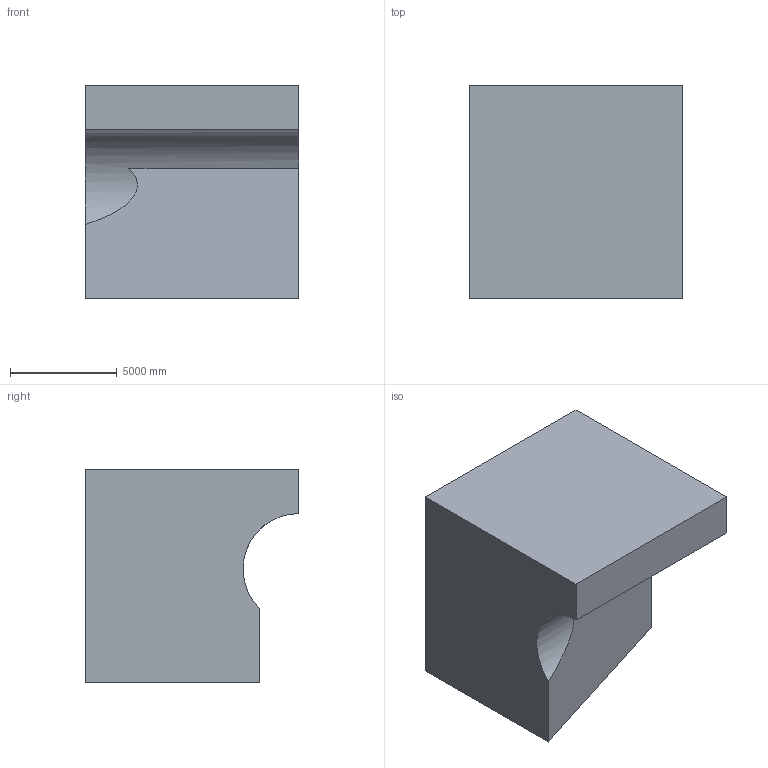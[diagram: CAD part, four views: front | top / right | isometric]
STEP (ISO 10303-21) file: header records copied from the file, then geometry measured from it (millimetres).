
FILE_DESCRIPTION (( 'STEP AP203' ), '1' );
FILE_NAME ('6.STEP', '2022-07-28T13:23:20', ( 'user' ), ( '' ), 'SwSTEP 2.0', 'SolidWorks 2021', '' );
FILE_SCHEMA (( 'CONFIG_CONTROL_DESIGN' ));
Length unit declared in the file: centimetre
Products named in the file (1): 6
Bounding box: 10000 x 10000 x 10000 mm (x, y, z)
Volume: 756347828168.5 mm3; surface area: 543620607.8 mm2
Topology: 1 solids, 1 shells, 9 faces, 21 edges, 14 vertices
Faces by surface type: plane 8, cylinder 1
Entity records: 334 total; most frequent: CARTESIAN_POINT 48, ORIENTED_EDGE 42, DIRECTION 42, EDGE_CURVE 21, LINE 18, VECTOR 18, VERTEX_POINT 14, AXIS2_PLACEMENT_3D 12
